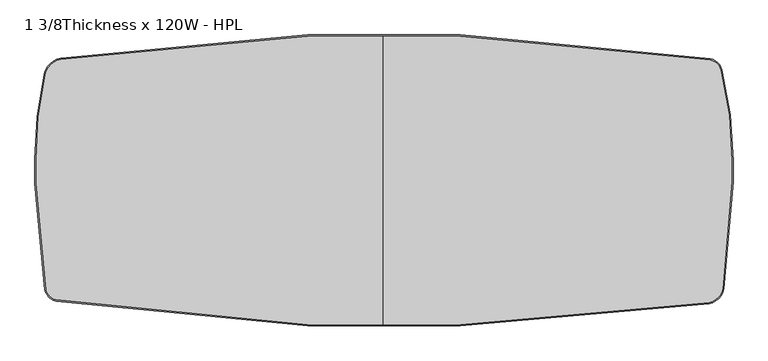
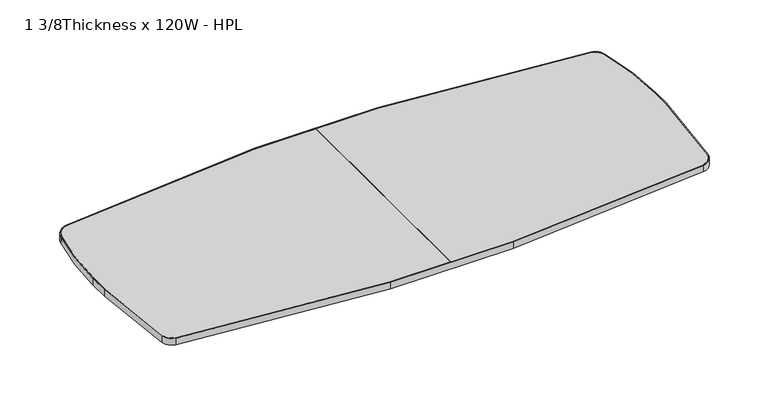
"""IFC4 building model written with IfcOpenShell, lengths in millimetres: furniture geometry, Steelcase - Groupwork - Table - Conference Table Top - Boat Shaped : 1 3/8Thickness x 120W - HPL."""

from ifc_helpers import new_model, si_unit, point, frame, frame_2d, origin, place, context, project, spatial, polyline, circle_curve, trimmed, segment, composite_curve, outline, extrude, source, transform, mapped, element, save


def furniture_1_3_8thickness_x_120w_hpl_f4fb3ff3(model_context):
    return source(origin(), model_context, "Body", "SweptSolid", [
        extrude(outline(composite_curve([segment(polyline([(904.24, 1219.2), (1542.7815864, 1219.2)]), True, "CONTINUOUS"), segment(trimmed(circle_curve(frame_2d((1542.7815864, -4333.0645975)), 5552.2645975), [point((1542.7815864, 1219.2))], [point((2589.4646936, 1119.6500139))], False, "CARTESIAN"), True, "CONTINUOUS"), segment(trimmed(circle_curve(frame_2d((2577.4940146, 1057.2885447)), 63.5), [point((2589.4646936, 1119.6500139))], [point((2639.1115882, 1072.635356))], False, "CARTESIAN"), True, "CONTINUOUS"), segment(trimmed(circle_curve(frame_2d((1111.4597468, 692.15)), 1574.3218396), [point((2639.1115882, 1072.635356))], [point((2685.7815864, 692.15))], False, "CARTESIAN"), True, "CONTINUOUS"), segment(polyline([(2685.7815864, 692.15), (2685.7815864, 603.25)]), True, "CONTINUOUS"), segment(trimmed(circle_curve(frame_2d((72.6283876, 603.25)), 2613.1531989), [point((2685.7815864, 603.25))], [point((2647.0789014, 155.1716667))], False, "CARTESIAN"), True, "CONTINUOUS"), segment(trimmed(circle_curve(frame_2d((2572.0074784, 168.2377086)), 76.2), [point((2647.0789014, 155.1716667))], [point((2585.5276111, 93.2467357))], False, "CARTESIAN"), True, "CONTINUOUS"), segment(trimmed(circle_curve(frame_2d((1542.7815864, 5876.9576085)), 5876.9576085), [point((2585.5276111, 93.2467357))], [point((1542.7815864, 0.0))], False, "CARTESIAN"), True, "CONTINUOUS"), segment(polyline([(1542.7815864, 0.0), (904.24, 0.0)]), True, "CONTINUOUS"), segment(trimmed(circle_curve(frame_2d((904.24, 5379.0678276)), 5379.0678276), [point((904.24, 0.0))], [point((-150.2140744, 104.3643005))], False, "CARTESIAN"), True, "CONTINUOUS"), segment(trimmed(circle_curve(frame_2d((-138.6259942, 162.3314413)), 59.1140678), [point((-150.2140744, 104.3643005))], [point((-196.6959626, 151.2701673))], False, "CARTESIAN"), True, "CONTINUOUS"), segment(trimmed(circle_curve(frame_2d((2142.7913607, 596.9)), 2381.5513607), [point((-196.6959626, 151.2701673))], [point((-238.76, 596.9))], False, "CARTESIAN"), True, "CONTINUOUS"), segment(polyline([(-238.76, 596.9), (-238.76, 698.5)]), True, "CONTINUOUS"), segment(trimmed(circle_curve(frame_2d((1422.3639321, 698.5)), 1661.1239321), [point((-238.76, 698.5))], [point((-200.3790866, 1053.5180462))], False, "CARTESIAN"), True, "CONTINUOUS"), segment(trimmed(circle_curve(frame_2d((-113.5331556, 1034.5181969)), 88.9), [point((-200.3790866, 1053.5180462))], [point((-130.1188768, 1121.8573282))], False, "CARTESIAN"), True, "CONTINUOUS"), segment(trimmed(circle_curve(frame_2d((904.24, -4324.9969173)), 5544.1969173), [point((-130.1188768, 1121.8573282))], [point((904.24, 1219.2))], False, "CARTESIAN"), True, "CONTINUOUS")], self_intersect=False), holes=[composite_curve([segment(trimmed(circle_curve(frame_2d((2577.4940146, 1057.2885447)), 58.42), [point((2634.1821823, 1071.4076111))], [point((2588.5070393, 1114.6610964))], True, "CARTESIAN"), True, "CONTINUOUS"), segment(trimmed(circle_curve(frame_2d((1542.7815864, -4333.0645975)), 5547.1845975), [point((2588.5070393, 1114.6610964))], [point((1542.7815864, 1214.12))], True, "CARTESIAN"), True, "CONTINUOUS"), segment(polyline([(1542.7815864, 1214.12), (904.24, 1214.12)]), True, "CONTINUOUS"), segment(trimmed(circle_curve(frame_2d((904.24, -4324.9969173)), 5539.1169173), [point((904.24, 1214.12))], [point((-129.1711213, 1116.8665207))], True, "CARTESIAN"), True, "CONTINUOUS"), segment(trimmed(circle_curve(frame_2d((-113.5331556, 1034.5181969)), 83.82), [point((-129.1711213, 1116.8665207))], [point((-195.416462, 1052.4323405))], True, "CARTESIAN"), True, "CONTINUOUS"), segment(trimmed(circle_curve(frame_2d((1422.3639321, 698.5)), 1656.0439321), [point((-195.416462, 1052.4323405))], [point((-233.68, 698.5))], True, "CARTESIAN"), True, "CONTINUOUS"), segment(polyline([(-233.68, 698.5), (-233.68, 596.9)]), True, "CONTINUOUS"), segment(trimmed(circle_curve(frame_2d((2142.7913607, 596.9)), 2376.4713607), [point((-233.68, 596.9))], [point((-191.7056878, 152.220724))], True, "CARTESIAN"), True, "CONTINUOUS"), segment(trimmed(circle_curve(frame_2d((-138.6259942, 162.3314413)), 54.0340678), [point((-191.7056878, 152.220724))], [point((-149.2182464, 109.3457387))], True, "CARTESIAN"), True, "CONTINUOUS"), segment(trimmed(circle_curve(frame_2d((904.24, 5379.0678276)), 5373.9878276), [point((-149.2182464, 109.3457387))], [point((904.24, 5.08))], True, "CARTESIAN"), True, "CONTINUOUS"), segment(polyline([(904.24, 5.08), (1542.7815864, 5.08)]), True, "CONTINUOUS"), segment(trimmed(circle_curve(frame_2d((1542.7815864, 5876.9576085)), 5871.8776085), [point((1542.7815864, 5.08))], [point((2584.6262689, 98.2461339))], True, "CARTESIAN"), True, "CONTINUOUS"), segment(trimmed(circle_curve(frame_2d((2572.0074784, 168.2377086)), 71.12), [point((2584.6262689, 98.2461339))], [point((2642.0741398, 156.0427362))], True, "CARTESIAN"), True, "CONTINUOUS"), segment(trimmed(circle_curve(frame_2d((72.6283876, 603.25)), 2608.0731989), [point((2642.0741398, 156.0427362))], [point((2680.7015864, 603.25))], True, "CARTESIAN"), True, "CONTINUOUS"), segment(polyline([(2680.7015864, 603.25), (2680.7015864, 692.15)]), True, "CONTINUOUS"), segment(trimmed(circle_curve(frame_2d((1111.4597468, 692.15)), 1569.2418396), [point((2680.7015864, 692.15))], [point((2634.1821823, 1071.4076111))], True, "CARTESIAN"), True, "CONTINUOUS")], self_intersect=False)]), frame((0.0, 0.0, 694.944), z_axis=(0.0, 0.0, 1.0), x_axis=(1.0, 0.0, 0.0)), (0.0, 0.0, 1.0), 35.052),
        extrude(outline(composite_curve([segment(polyline([(904.24, 1214.12), (1217.6125, 1214.12), (1217.6125, 5.08), (904.24, 5.08)]), True, "CONTINUOUS"), segment(trimmed(circle_curve(frame_2d((904.24, 5379.0678276)), 5373.9878276), [point((904.24, 5.08))], [point((-149.2182464, 109.3457387))], False, "CARTESIAN"), True, "CONTINUOUS"), segment(trimmed(circle_curve(frame_2d((-138.6259942, 162.3314413)), 54.0340678), [point((-149.2182464, 109.3457387))], [point((-191.7056878, 152.220724))], False, "CARTESIAN"), True, "CONTINUOUS"), segment(trimmed(circle_curve(frame_2d((2142.7913607, 596.9)), 2376.4713607), [point((-191.7056878, 152.220724))], [point((-233.68, 596.9))], False, "CARTESIAN"), True, "CONTINUOUS"), segment(polyline([(-233.68, 596.9), (-233.68, 698.5)]), True, "CONTINUOUS"), segment(trimmed(circle_curve(frame_2d((1422.3639321, 698.5)), 1656.0439321), [point((-233.68, 698.5))], [point((-195.416462, 1052.4323405))], False, "CARTESIAN"), True, "CONTINUOUS"), segment(trimmed(circle_curve(frame_2d((-113.5331556, 1034.5181969)), 83.82), [point((-195.416462, 1052.4323405))], [point((-129.1711213, 1116.8665207))], False, "CARTESIAN"), True, "CONTINUOUS"), segment(trimmed(circle_curve(frame_2d((904.24, -4324.9969173)), 5539.1169173), [point((-129.1711213, 1116.8665207))], [point((904.24, 1214.12))], False, "CARTESIAN"), True, "CONTINUOUS")], self_intersect=False)), frame((0.0, 0.0, 694.944), z_axis=(0.0, 0.0, 1.0), x_axis=(1.0, 0.0, 0.0)), (0.0, 0.0, 1.0), 35.052),
        extrude(outline(composite_curve([segment(trimmed(circle_curve(frame_2d((2577.4940146, 1057.2885447)), 58.42), [point((2588.5070393, 1114.6610964))], [point((2634.1821823, 1071.4076111))], False, "CARTESIAN"), True, "CONTINUOUS"), segment(trimmed(circle_curve(frame_2d((1111.4597468, 692.15)), 1569.2418396), [point((2634.1821823, 1071.4076111))], [point((2680.7015864, 692.15))], False, "CARTESIAN"), True, "CONTINUOUS"), segment(polyline([(2680.7015864, 692.15), (2680.7015864, 603.25)]), True, "CONTINUOUS"), segment(trimmed(circle_curve(frame_2d((72.6283876, 603.25)), 2608.0731989), [point((2680.7015864, 603.25))], [point((2642.0741398, 156.0427362))], False, "CARTESIAN"), True, "CONTINUOUS"), segment(trimmed(circle_curve(frame_2d((2572.0074784, 168.2377086)), 71.12), [point((2642.0741398, 156.0427362))], [point((2584.6262689, 98.2461339))], False, "CARTESIAN"), True, "CONTINUOUS"), segment(trimmed(circle_curve(frame_2d((1542.7815864, 5876.9576085)), 5871.8776085), [point((2584.6262689, 98.2461339))], [point((1542.7815864, 5.08))], False, "CARTESIAN"), True, "CONTINUOUS"), segment(polyline([(1542.7815864, 5.08), (1220.7875, 5.08), (1220.7875, 1214.12), (1542.7815864, 1214.12)]), True, "CONTINUOUS"), segment(trimmed(circle_curve(frame_2d((1542.7815864, -4333.0645975)), 5547.1845975), [point((1542.7815864, 1214.12))], [point((2588.5070393, 1114.6610964))], False, "CARTESIAN"), True, "CONTINUOUS")], self_intersect=False)), frame((0.0, 0.0, 694.944), z_axis=(0.0, 0.0, 1.0), x_axis=(1.0, 0.0, 0.0)), (0.0, 0.0, 1.0), 35.052),
    ])


if __name__ == "__main__":
    model = new_model("IFC4")
    model_context = context("Model", 3, world=origin())
    ifc_project = project(units=[si_unit("LENGTHUNIT", "METRE", prefix="MILLI")], contexts=[model_context])
    site = spatial("IfcSite", under=ifc_project)
    building = spatial("IfcBuilding", under=site)
    placement = place(None, origin())
    furniture_1_3_8thickness_x_120w_hpl_shape = furniture_1_3_8thickness_x_120w_hpl_f4fb3ff3(model_context)
    element("IfcFurniture", 1, ObjectType="Steelcase - Groupwork - Table - Conference Table Top - Boat Shaped : 1 3/8Thickness x 120W - HPL", at=placement, inside=building, context=model_context, shape_type="MappedRepresentation", body=[
        mapped(furniture_1_3_8thickness_x_120w_hpl_shape, transform((0.0, 0.0, 0.0), x_axis=(1.0, 0.0, 0.0), y_axis=(0.0, 1.0, 0.0), z_axis=(0.0, 0.0, 1.0))),
    ])
    save(model, "model.ifc")
